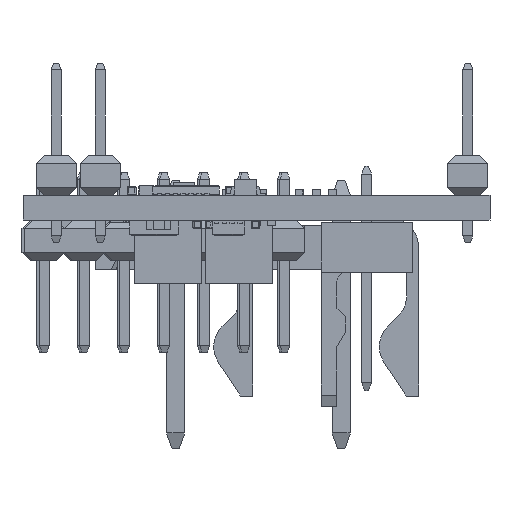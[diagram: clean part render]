
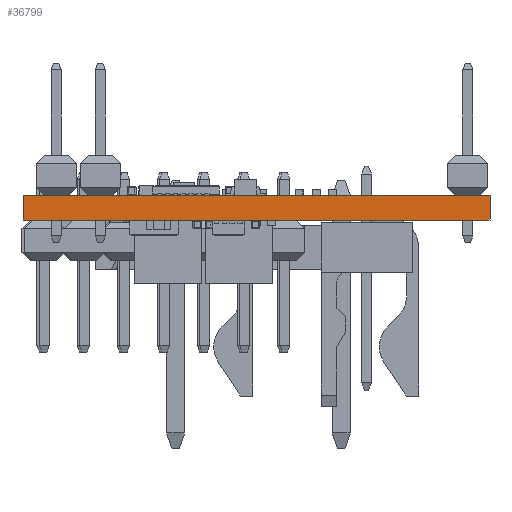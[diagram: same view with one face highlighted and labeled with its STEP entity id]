
A CAD part, front view. The second image highlights one B-rep face of the part: STEP entity #36799.
In plain terms, the highlighted planar face has unit normal (0, -1, 0).
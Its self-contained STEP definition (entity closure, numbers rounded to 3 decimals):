
#1081=PLANE('',#39425);
#2876=FACE_OUTER_BOUND('',#4973,.T.);
#4973=EDGE_LOOP('',(#24971,#24972,#24973,#24974));
#7363=LINE('',#52254,#11553);
#7371=LINE('',#52269,#11561);
#7372=LINE('',#52271,#11562);
#7373=LINE('',#52272,#11563);
#11553=VECTOR('',#42613,10.);
#11561=VECTOR('',#42625,10.);
#11562=VECTOR('',#42628,10.);
#11563=VECTOR('',#42629,10.);
#16441=VERTEX_POINT('',#52250);
#16443=VERTEX_POINT('',#52253);
#16447=VERTEX_POINT('',#52265);
#16448=VERTEX_POINT('',#52267);
#19746=EDGE_CURVE('',#16441,#16443,#7363,.T.);
#19754=EDGE_CURVE('',#16447,#16448,#7371,.T.);
#19755=EDGE_CURVE('',#16447,#16441,#7372,.T.);
#19756=EDGE_CURVE('',#16443,#16448,#7373,.T.);
#24971=ORIENTED_EDGE('',*,*,#19755,.F.);
#24972=ORIENTED_EDGE('',*,*,#19754,.T.);
#24973=ORIENTED_EDGE('',*,*,#19756,.F.);
#24974=ORIENTED_EDGE('',*,*,#19746,.F.);
#36799=ADVANCED_FACE('',(#2876),#1081,.T.);
#39425=AXIS2_PLACEMENT_3D('',#52270,#42626,#42627);
#42613=DIRECTION('',(0.,0.,1.));
#42625=DIRECTION('',(0.,0.,1.));
#42626=DIRECTION('center_axis',(0.,-1.,0.));
#42627=DIRECTION('ref_axis',(1.,0.,0.));
#42628=DIRECTION('',(-1.,0.,0.));
#42629=DIRECTION('',(1.,0.,0.));
#52250=CARTESIAN_POINT('',(0.2,0.2,0.));
#52253=CARTESIAN_POINT('',(0.2,0.2,1.57));
#52254=CARTESIAN_POINT('',(0.2,0.2,0.));
#52265=CARTESIAN_POINT('',(29.8,0.2,0.));
#52267=CARTESIAN_POINT('',(29.8,0.2,1.57));
#52269=CARTESIAN_POINT('',(29.8,0.2,0.));
#52270=CARTESIAN_POINT('Origin',(0.2,0.2,0.));
#52271=CARTESIAN_POINT('',(29.8,0.2,0.));
#52272=CARTESIAN_POINT('',(29.8,0.2,1.57));
